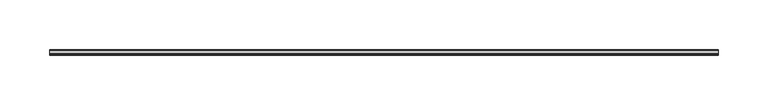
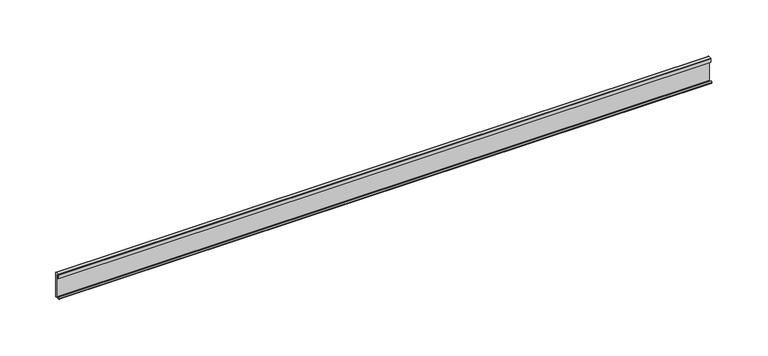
"""IFC4 building model written with IfcOpenShell, lengths in millimetres: proxy geometry, Weiku - Montante - Capa de folha 02.3.02.406 : Weiku - Montante - Capa de folha 02.3.02.406."""

from ifc_helpers import new_model, si_unit, point, frame, frame_2d, origin, place, context, project, spatial, polyline, circle_curve, trimmed, segment, composite_curve, outline, extrude, source, transform, mapped, element, save


def generic_models_920ee7a4(model_context):
    return source(origin(), model_context, "Body", "SweptSolid", [
        extrude(outline(composite_curve([segment(polyline([(-4.6421508, 2.2715508), (-3.3866, 1.016), (-1.6933, 1.016), (-1.6933, 25.684), (-3.3063, 25.684), (-3.3063, 22.3396), (-4.28, 22.3396), (-4.28, 26.2)]), True, "CONTINUOUS"), segment(trimmed(circle_curve(frame_2d((-3.78, 26.2)), 0.5), [point((-4.28, 26.2))], [point((-3.78, 26.7))], False, "CARTESIAN"), True, "CONTINUOUS"), segment(polyline([(-3.78, 26.7), (-0.5, 26.7)]), True, "CONTINUOUS"), segment(trimmed(circle_curve(frame_2d((-0.5, 26.2)), 0.5), [point((-0.5, 26.7))], [point((0.0, 26.2))], False, "CARTESIAN"), True, "CONTINUOUS"), segment(polyline([(0.0, 26.2), (0.0, 0.5)]), True, "CONTINUOUS"), segment(trimmed(circle_curve(frame_2d((-0.5, 0.5)), 0.5), [point((0.0, 0.5))], [point((-0.5, 0.0))], False, "CARTESIAN"), True, "CONTINUOUS"), segment(polyline([(-0.5, 0.0), (-4.7576991, 0.0)]), True, "CONTINUOUS"), segment(trimmed(circle_curve(frame_2d((-4.7576991, 0.7)), 0.7), [point((-4.7576991, 0.0))], [point((-5.3603515, 1.056104))], False, "CARTESIAN"), True, "CONTINUOUS"), segment(polyline([(-5.3603515, 1.056104), (-4.6421508, 2.2715508)]), True, "CONTINUOUS")], self_intersect=False)), frame((-337.1, 0.0, 0.0), z_axis=(1.0, 0.0, 0.0), x_axis=(0.0, 1.0, 0.0)), (0.0, 0.0, 1.0), 674.2),
    ])


if __name__ == "__main__":
    model = new_model("IFC4")
    model_context = context("Model", 3, world=origin())
    ifc_project = project(units=[si_unit("LENGTHUNIT", "METRE", prefix="MILLI")], contexts=[model_context])
    site = spatial("IfcSite", under=ifc_project)
    building = spatial("IfcBuilding", under=site)
    placement = place(None, origin())
    generic_models_shape = generic_models_920ee7a4(model_context)
    element("IfcBuildingElementProxy", 1, Name="Weiku - Montante - Capa de folha 02.3.02.406 : Weiku - Montante - Capa de folha 02.3.02.406", ObjectType="Weiku - Montante - Capa de folha 02.3.02.406 : Weiku - Montante - Capa de folha 02.3.02.406", at=placement, inside=building, context=model_context, shape_type="MappedRepresentation", body=[
        mapped(generic_models_shape, transform((0.0, 0.0, 0.0), x_axis=(1.0, 0.0, 0.0), y_axis=(0.0, 1.0, 0.0), z_axis=(0.0, 0.0, 1.0))),
    ])
    save(model, "model.ifc")
